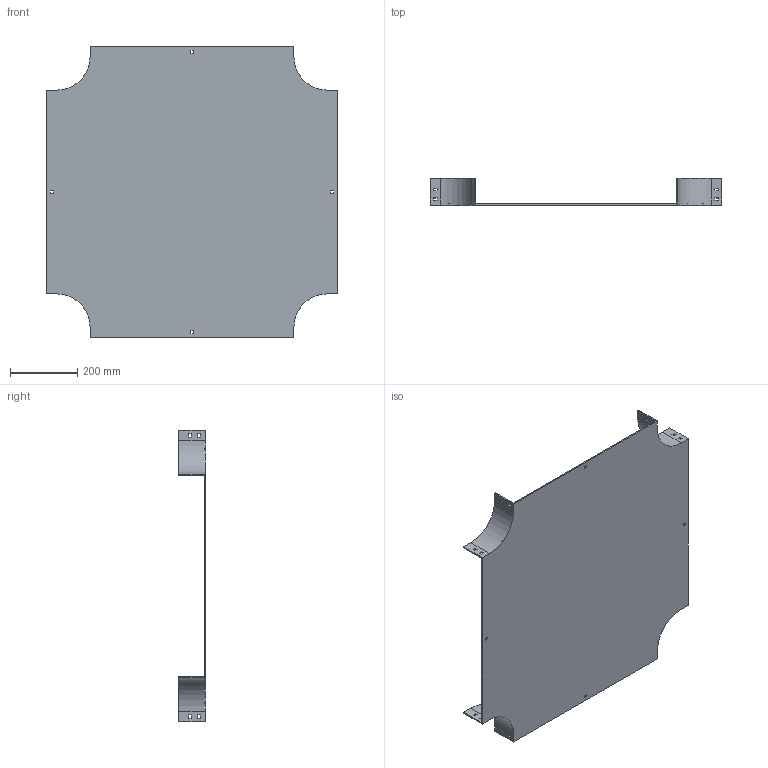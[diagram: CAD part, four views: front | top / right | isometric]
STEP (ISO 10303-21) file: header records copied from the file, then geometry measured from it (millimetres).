
FILE_DESCRIPTION (( 'STEP AP214' ), '1' );
FILE_NAME ('17F1C600.step', '2025-02-21T13:06:28', ( '' ), ( '' ), 'SwSTEP 2.0', 'SolidWorks 2023', '' );
FILE_SCHEMA (( 'AUTOMOTIVE_DESIGN' ));
Length unit declared in the file: millimetre
Products named in the file (1): 17F1C600
Bounding box: 864 x 79 x 864 mm (x, y, z)
Volume: 2633800 mm3; surface area: 1520975.7 mm2
Topology: 1 solids, 1 shells, 114 faces, 336 edges, 224 vertices
Faces by surface type: plane 106, cylinder 8
Entity records: 3839 total; most frequent: CARTESIAN_POINT 675, ORIENTED_EDGE 672, DIRECTION 582, EDGE_CURVE 336, LINE 320, VECTOR 320, VERTEX_POINT 224, EDGE_LOOP 154
